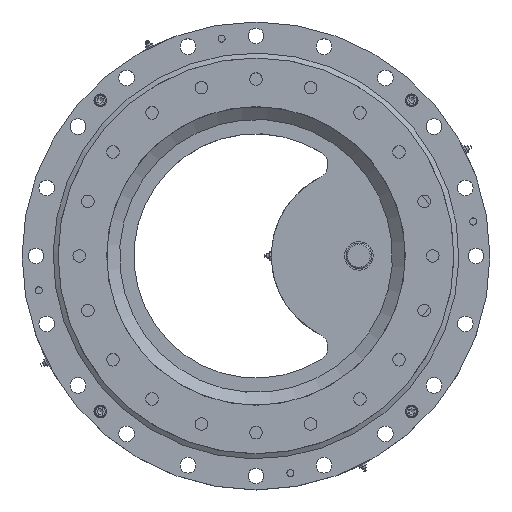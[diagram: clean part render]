
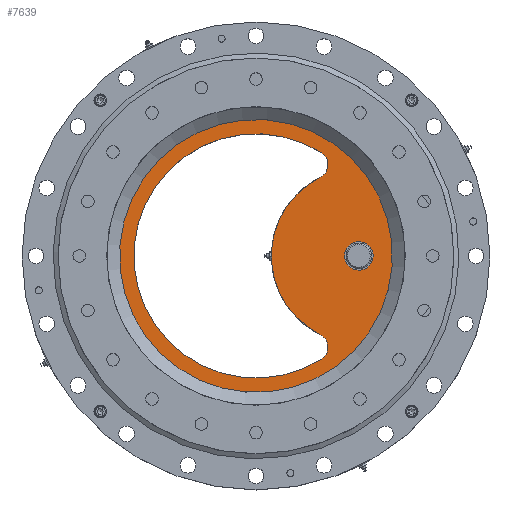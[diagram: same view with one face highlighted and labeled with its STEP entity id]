
A CAD part, top view. The second image highlights one B-rep face of the part: STEP entity #7639.
In plain terms, the highlighted planar face has unit normal (0, 0, 1).
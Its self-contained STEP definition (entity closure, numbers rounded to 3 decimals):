
#56=PLANE('',#8206);
#299=FACE_BOUND('',#907,.T.);
#300=FACE_BOUND('',#908,.T.);
#475=FACE_OUTER_BOUND('',#906,.T.);
#906=EDGE_LOOP('',(#5446));
#907=EDGE_LOOP('',(#5447));
#908=EDGE_LOOP('',(#5448,#5449,#5450,#5451));
#2553=CIRCLE('',#8088,171.);
#2557=CIRCLE('',#8093,122.5);
#2611=CIRCLE('',#8174,20.);
#2636=CIRCLE('',#8205,20.);
#2637=CIRCLE('',#8207,193.);
#2638=CIRCLE('',#8208,18.);
#3158=VERTEX_POINT('',#11589);
#3159=VERTEX_POINT('',#11590);
#3166=VERTEX_POINT('',#11605);
#3167=VERTEX_POINT('',#11607);
#3244=VERTEX_POINT('',#12000);
#3245=VERTEX_POINT('',#12002);
#4023=EDGE_CURVE('',#3158,#3159,#2553,.T.);
#4031=EDGE_CURVE('',#3166,#3167,#2557,.T.);
#4116=EDGE_CURVE('',#3158,#3167,#2611,.T.);
#4141=EDGE_CURVE('',#3166,#3159,#2636,.T.);
#4142=EDGE_CURVE('',#3244,#3244,#2637,.T.);
#4143=EDGE_CURVE('',#3245,#3245,#2638,.T.);
#5446=ORIENTED_EDGE('',*,*,#4142,.T.);
#5447=ORIENTED_EDGE('',*,*,#4143,.T.);
#5448=ORIENTED_EDGE('',*,*,#4023,.F.);
#5449=ORIENTED_EDGE('',*,*,#4116,.T.);
#5450=ORIENTED_EDGE('',*,*,#4031,.F.);
#5451=ORIENTED_EDGE('',*,*,#4141,.T.);
#7639=ADVANCED_FACE('',(#475,#299,#300),#56,.T.);
#8088=AXIS2_PLACEMENT_3D('',#11591,#9059,#9060);
#8093=AXIS2_PLACEMENT_3D('',#11608,#9073,#9074);
#8174=AXIS2_PLACEMENT_3D('',#11949,#9264,#9265);
#8205=AXIS2_PLACEMENT_3D('',#11998,#9326,#9327);
#8206=AXIS2_PLACEMENT_3D('',#11999,#9328,#9329);
#8207=AXIS2_PLACEMENT_3D('',#12001,#9330,#9331);
#8208=AXIS2_PLACEMENT_3D('',#12003,#9332,#9333);
#9059=DIRECTION('center_axis',(0.,0.,1.));
#9060=DIRECTION('ref_axis',(1.,0.,0.));
#9073=DIRECTION('center_axis',(0.,0.,-1.));
#9074=DIRECTION('ref_axis',(1.,0.,0.));
#9264=DIRECTION('center_axis',(0.,0.,-1.));
#9265=DIRECTION('ref_axis',(1.,0.,0.));
#9326=DIRECTION('center_axis',(0.,0.,-1.));
#9327=DIRECTION('ref_axis',(1.,0.,0.));
#9328=DIRECTION('center_axis',(0.,0.,1.));
#9329=DIRECTION('ref_axis',(1.,0.,0.));
#9330=DIRECTION('center_axis',(0.,0.,1.));
#9331=DIRECTION('ref_axis',(1.,0.,0.));
#9332=DIRECTION('center_axis',(0.,0.,-1.));
#9333=DIRECTION('ref_axis',(-1.,0.,0.));
#11589=CARTESIAN_POINT('',(24.943,182.056,647.5));
#11590=CARTESIAN_POINT('',(24.943,-107.06,647.5));
#11591=CARTESIAN_POINT('Origin',(-66.403,37.498,647.5));
#11605=CARTESIAN_POINT('',(23.149,-72.236,647.5));
#11607=CARTESIAN_POINT('',(23.149,147.232,647.5));
#11608=CARTESIAN_POINT('Origin',(77.597,37.498,647.5));
#11949=CARTESIAN_POINT('Origin',(14.26,165.148,647.5));
#11998=CARTESIAN_POINT('Origin',(14.26,-90.152,647.5));
#11999=CARTESIAN_POINT('Origin',(-66.403,37.498,647.5));
#12000=CARTESIAN_POINT('',(-259.403,37.498,647.5));
#12001=CARTESIAN_POINT('Origin',(-66.403,37.498,647.5));
#12002=CARTESIAN_POINT('',(95.597,37.498,647.5));
#12003=CARTESIAN_POINT('Origin',(77.597,37.498,647.5));
